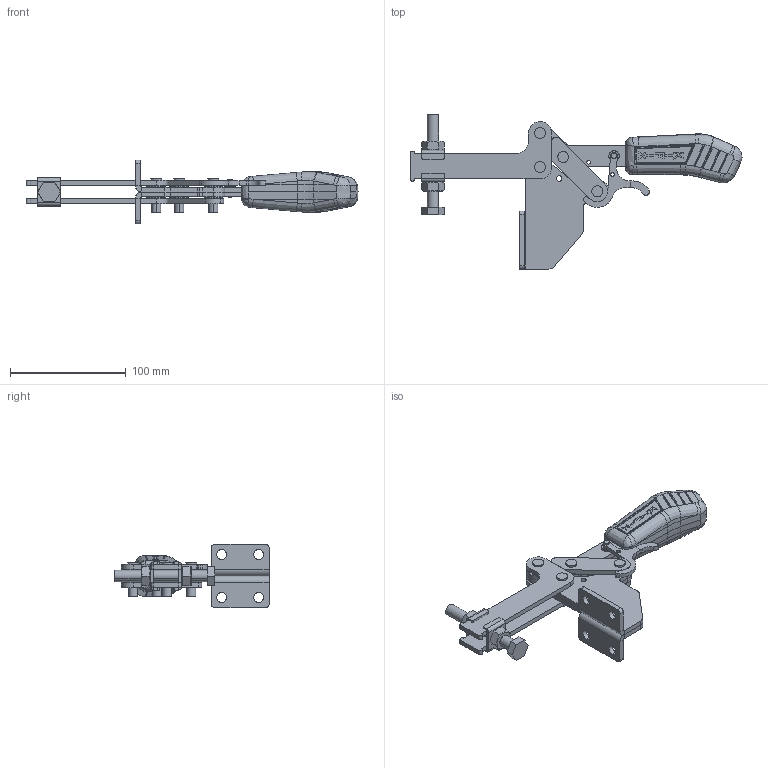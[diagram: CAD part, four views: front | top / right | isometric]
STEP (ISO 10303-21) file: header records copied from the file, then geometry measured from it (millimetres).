
FILE_DESCRIPTION (( 'STEP AP203' ), '1' );
FILE_NAME ('KF-531 FL TR.STEP', '2018-04-17T12:08:17', ( 'Ricardo' ), ( '' ), 'SwSTEP 2.0', 'SolidWorks 2018', '' );
FILE_SCHEMA (( 'CONFIG_CONTROL_DESIGN' ));
Length unit declared in the file: millimetre
Products named in the file (15): 3670000096; 06.50026; 07.60002; 14.10003; 12.50021; 02.12208_Direita; 11.50003; 02.12208_Esquerda; KF-531 FL TR; 17.50002; 01.10135; 18.10020; 03.13050; 17.50013; 08.10008
Assembly tree (30 placements, depth 2):
  KF-531 FL TR
    02.12208_Direita
    02.12208_Esquerda
    01.10135  x2
    03.13050  x2
    08.10008  x2
    06.50026  x4
    07.60002
    14.10003  x2
    12.50021
    11.50003  x2
    17.50002  x8
    18.10020
    17.50013  x2
    3670000096
Bounding box: 287.19 x 133.34 x 55 mm (x, y, z)
Volume: 211917.8 mm3; surface area: 96212.9 mm2
Topology: 30 solids, 30 shells, 866 faces, 2111 edges, 1319 vertices
Faces by surface type: plane 295, cylinder 259, bspline 157, cone 100, sphere 52, torus 3
Entity records: 25293 total; most frequent: CARTESIAN_POINT 9115, ORIENTED_EDGE 3192, DIRECTION 2595, EDGE_CURVE 1596, VERTEX_POINT 1009, AXIS2_PLACEMENT_3D 990, EDGE_LOOP 711, ADVANCED_FACE 638
